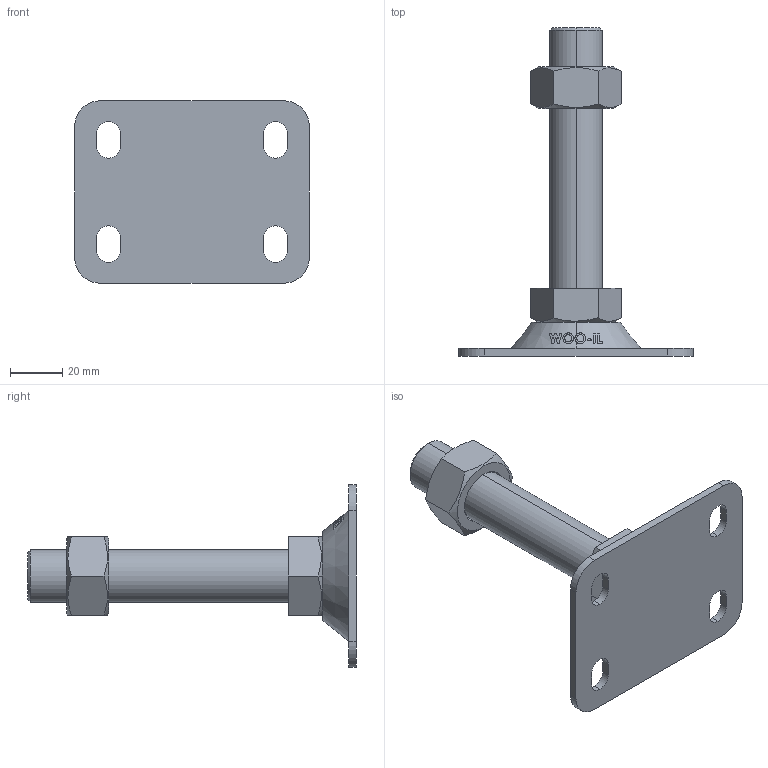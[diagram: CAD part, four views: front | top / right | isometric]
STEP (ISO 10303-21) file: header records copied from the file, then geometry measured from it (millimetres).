
FILE_DESCRIPTION (( 'STEP AP214' ), '1' );
FILE_NAME ('FABL7090-M20-100.step', '2021-03-28T23:52:24', ( '' ), ( '' ), 'SwSTEP 2.0', 'SolidWorks 2019', '' );
FILE_SCHEMA (( 'AUTOMOTIVE_DESIGN' ));
Length unit declared in the file: millimetre
Products named in the file (2): FABL7090-M20-100
Bounding box: 90 x 126 x 70 mm (x, y, z)
Volume: 80064.3 mm3; surface area: 24878 mm2
Topology: 2 solids, 2 shells, 146 faces, 388 edges, 256 vertices
Faces by surface type: plane 58, cylinder 48, cone 22, bspline 18
Entity records: 6128 total; most frequent: CARTESIAN_POINT 2680, ORIENTED_EDGE 776, DIRECTION 582, EDGE_CURVE 388, VERTEX_POINT 256, AXIS2_PLACEMENT_3D 210, EDGE_LOOP 166, LINE 162
